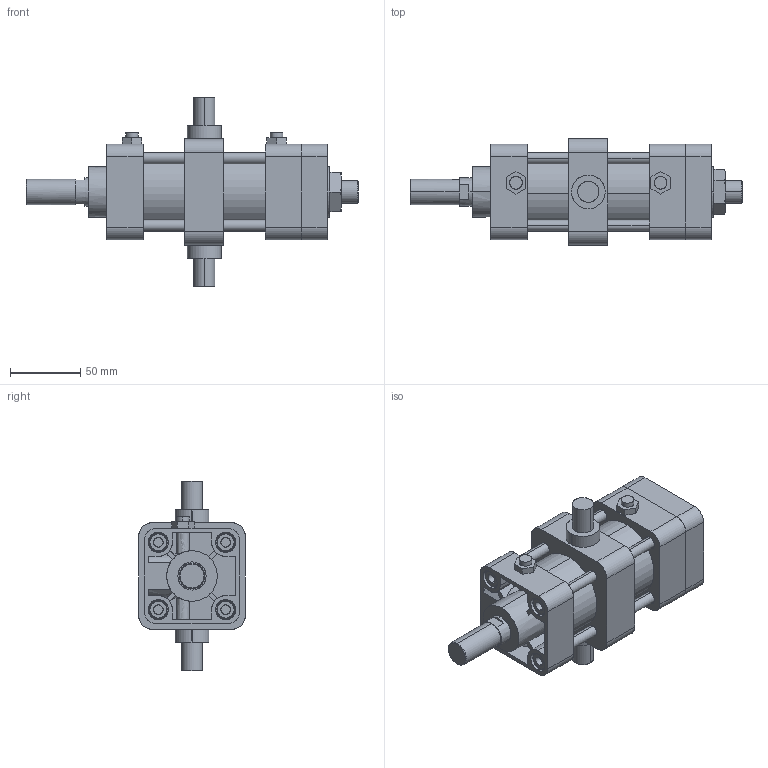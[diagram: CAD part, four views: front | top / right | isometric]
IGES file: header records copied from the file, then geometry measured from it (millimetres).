
Start section: SolidWorks IGES file using analytic representation for surfaces
Global section: file name: C:\Users\Toshiba\Desktop\KGA2-50#-50-T.IGS; native system: SolidWorks 2014; preprocessor: SolidWorks 2014; author: Toshiba; date: 160414.154024; units: millimetre
Bounding box: 236.5 x 76 x 135 mm (x, y, z)
Surface area: 141230.4 mm2 (no closed solid volume)
Topology: 0 solids, 0 shells, 396 faces, 6578 edges, 6574 vertices
Faces by surface type: bspline 204, revolution 192
